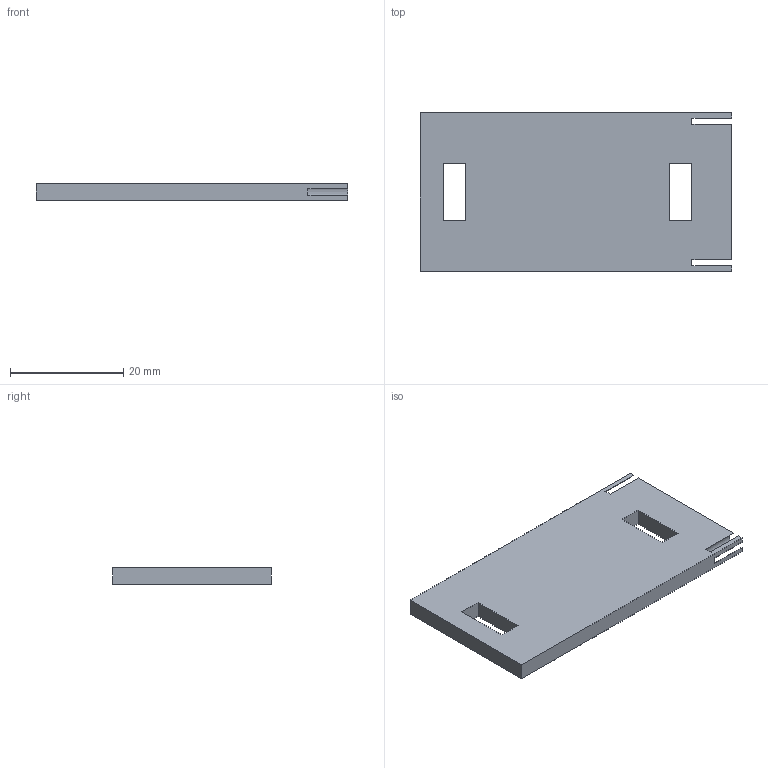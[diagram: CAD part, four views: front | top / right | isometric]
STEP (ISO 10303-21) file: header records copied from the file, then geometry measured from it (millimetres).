
FILE_DESCRIPTION(('Open CASCADE Model'),'2;1');
FILE_NAME('Open CASCADE Shape Model','2026-11-20T16:45:16',('Author'),( 'Open CASCADE'),'Open CASCADE STEP processor 7.9','Open CASCADE 7.9' ,'Unknown');
FILE_SCHEMA(('AUTOMOTIVE_DESIGN { 1 0 10303 214 1 1 1 1 }'));
Length unit declared in the file: millimetre
Products named in the file (1): Open CASCADE STEP translator 7.9 1
Bounding box: 55 x 28 x 3 mm (x, y, z)
Volume: 4270.5 mm3; surface area: 3632.2 mm2
Topology: 1 solids, 1 shells, 26 faces, 72 edges, 48 vertices
Faces by surface type: plane 20, cylinder 6
Entity records: 1714 total; most frequent: CARTESIAN_POINT 359, DIRECTION 214, ORIENTED_EDGE 144, PCURVE 144, DEFINITIONAL_REPRESENTATION 144, LINE 124, VECTOR 124, EDGE_CURVE 72
